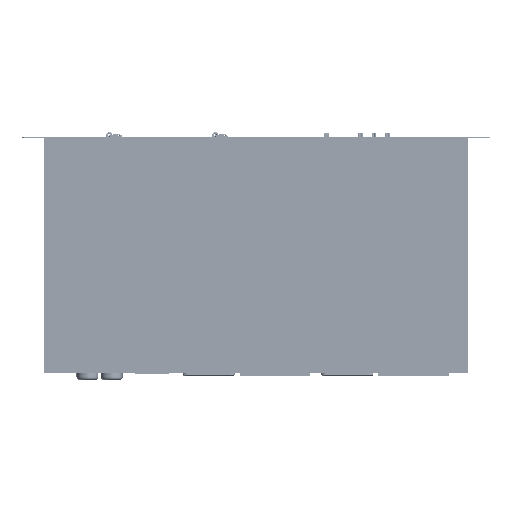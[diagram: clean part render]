
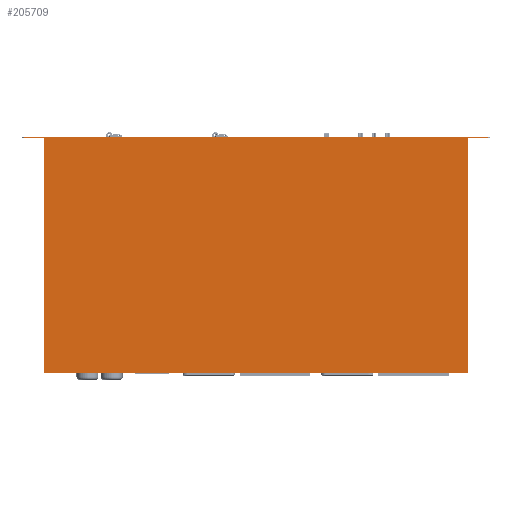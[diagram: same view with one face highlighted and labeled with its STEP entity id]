
A CAD part, top view. The second image highlights one B-rep face of the part: STEP entity #205709.
In plain terms, the highlighted planar face has unit normal (0, 0, 1).
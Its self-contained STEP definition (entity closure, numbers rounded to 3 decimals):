
#205709=ADVANCED_FACE('',(#460979),#460981,.T.);
#460979=FACE_BOUND('',#460980,.T.);
#460980=EDGE_LOOP('',(#626663,#626664,#626665,#626666,#626667,#626668,#626669,#626670));
#460981=PLANE('',#460982);
#460982=AXIS2_PLACEMENT_3D('',#460983,#460984,#460985);
#460983=CARTESIAN_POINT('',(-241.,-1.,43.9));
#460984=DIRECTION('',(0.,0.,1.));
#460985=DIRECTION('',(1.,0.,0.));
#626663=ORIENTED_EDGE('',*,*,#743983,.T.);
#626664=ORIENTED_EDGE('',*,*,#743981,.T.);
#626665=ORIENTED_EDGE('',*,*,#743984,.T.);
#626666=ORIENTED_EDGE('',*,*,#743976,.T.);
#626667=ORIENTED_EDGE('',*,*,#743985,.T.);
#626668=ORIENTED_EDGE('',*,*,#743986,.T.);
#626669=ORIENTED_EDGE('',*,*,#743987,.F.);
#626670=ORIENTED_EDGE('',*,*,#743988,.F.);
#743976=EDGE_CURVE('',#867164,#867162,#867165,.T.);
#743981=EDGE_CURVE('',#867174,#867172,#867175,.T.);
#743983=EDGE_CURVE('',#867177,#867174,#867178,.T.);
#743984=EDGE_CURVE('',#867172,#867164,#867179,.T.);
#743985=EDGE_CURVE('',#867162,#867180,#867181,.T.);
#743986=EDGE_CURVE('',#867180,#867182,#867183,.T.);
#743987=EDGE_CURVE('',#867184,#867182,#867185,.T.);
#743988=EDGE_CURVE('',#867177,#867184,#867186,.T.);
#867162=VERTEX_POINT('',#1240358);
#867164=VERTEX_POINT('',#1240362);
#867165=LINE('',#1240363,#1240364);
#867172=VERTEX_POINT('',#1240378);
#867174=VERTEX_POINT('',#1240382);
#867175=LINE('',#1240383,#1240384);
#867177=VERTEX_POINT('',#1240389);
#867178=LINE('',#1240390,#1240391);
#867179=LINE('',#1240393,#1240394);
#867180=VERTEX_POINT('',#1240396);
#867181=LINE('',#1240397,#1240398);
#867182=VERTEX_POINT('',#1240400);
#867183=LINE('',#1240401,#1240402);
#867184=VERTEX_POINT('',#1240404);
#867185=LINE('',#1240405,#1240406);
#867186=LINE('',#1240408,#1240409);
#1240358=CARTESIAN_POINT('',(220.,-1.,43.9));
#1240362=CARTESIAN_POINT('',(220.,-245.,43.9));
#1240363=CARTESIAN_POINT('',(220.,-245.,43.9));
#1240364=VECTOR('',#1240365,1.);
#1240365=DIRECTION('',(0.,1.,0.));
#1240378=CARTESIAN_POINT('',(-220.,-245.,43.9));
#1240382=CARTESIAN_POINT('',(-220.,-1.,43.9));
#1240383=CARTESIAN_POINT('',(-220.,-1.,43.9));
#1240384=VECTOR('',#1240385,1.);
#1240385=DIRECTION('',(0.,-1.,0.));
#1240389=CARTESIAN_POINT('',(-241.,-1.,43.9));
#1240390=CARTESIAN_POINT('',(-241.,-1.,43.9));
#1240391=VECTOR('',#1240392,1.);
#1240392=DIRECTION('',(1.,0.,0.));
#1240393=CARTESIAN_POINT('',(-220.,-245.,43.9));
#1240394=VECTOR('',#1240395,1.);
#1240395=DIRECTION('',(1.,0.,0.));
#1240396=CARTESIAN_POINT('',(241.,-1.,43.9));
#1240397=CARTESIAN_POINT('',(220.,-1.,43.9));
#1240398=VECTOR('',#1240399,1.);
#1240399=DIRECTION('',(1.,0.,0.));
#1240400=CARTESIAN_POINT('',(241.,0.,43.9));
#1240401=CARTESIAN_POINT('',(241.,-1.,43.9));
#1240402=VECTOR('',#1240403,1.);
#1240403=DIRECTION('',(0.,1.,0.));
#1240404=CARTESIAN_POINT('',(-241.,0.,43.9));
#1240405=CARTESIAN_POINT('',(-241.,0.,43.9));
#1240406=VECTOR('',#1240407,1.);
#1240407=DIRECTION('',(1.,0.,0.));
#1240408=CARTESIAN_POINT('',(-241.,-1.,43.9));
#1240409=VECTOR('',#1240410,1.);
#1240410=DIRECTION('',(0.,1.,0.));
